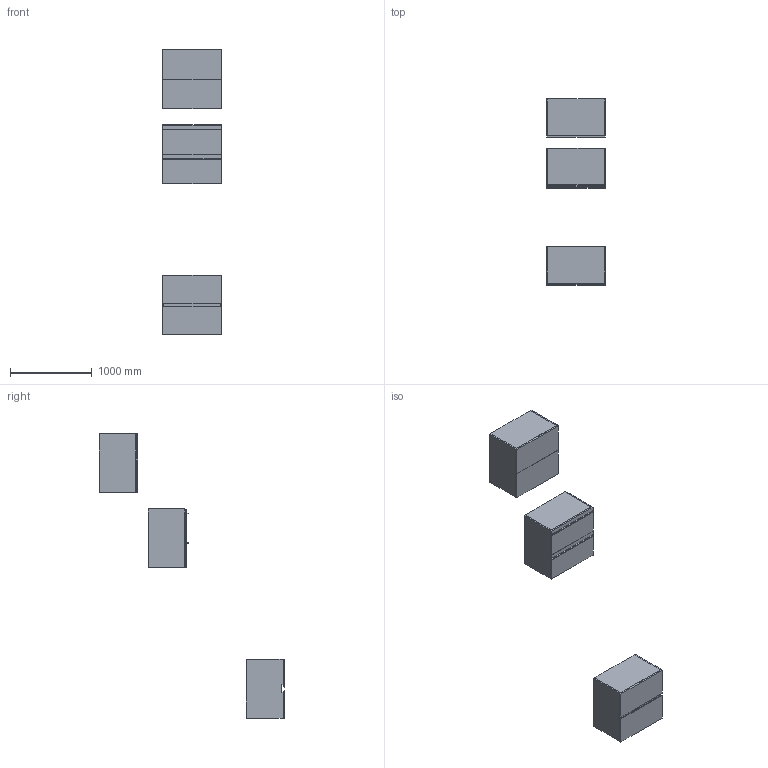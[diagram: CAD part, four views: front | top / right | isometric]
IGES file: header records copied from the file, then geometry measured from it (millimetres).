
Start section: Data from Parasolid IGES Translator 19.0.9, Copyright(c) 2006 Siemens PL M Software. All Rights Reserved.
Global section: file name: noorth-SI-H 72 D 47 W 72_8616.igs; native system: By Siemens PLM Incorporated; preprocessor: XPlus GENERIC/IGES 19.0.9; author: Noname; organization: Noname; date: 20200601.120419; units: metre
Bounding box: 720 x 2270 x 3480.01 mm (x, y, z)
Volume: 93964681.3 mm3; surface area: 14429084.6 mm2
Topology: 24 solids, 24 shells, 248 faces, 544 edges, 324 vertices
Faces by surface type: plane 164, extrusion 36, bspline 32, cylinder 16
